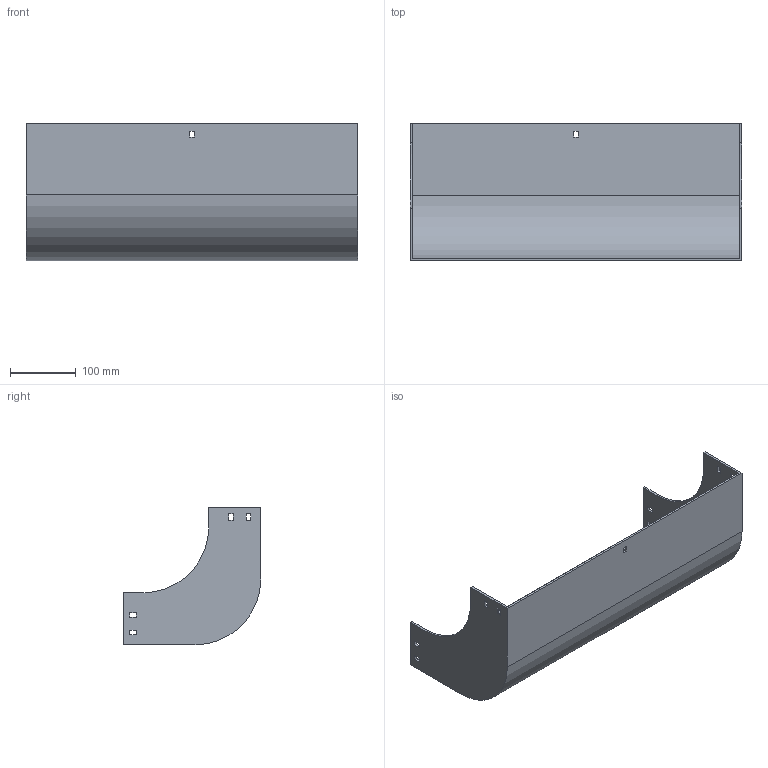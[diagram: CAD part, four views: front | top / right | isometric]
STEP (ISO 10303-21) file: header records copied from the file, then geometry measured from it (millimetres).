
FILE_DESCRIPTION (( 'STEP AP214' ), '1' );
FILE_NAME ('30F1C500.step', '2025-02-21T13:02:20', ( '' ), ( '' ), 'SwSTEP 2.0', 'SolidWorks 2023', '' );
FILE_SCHEMA (( 'AUTOMOTIVE_DESIGN' ));
Length unit declared in the file: millimetre
Products named in the file (1): 30F1C500
Bounding box: 504 x 209 x 209 mm (x, y, z)
Volume: 832766.8 mm3; surface area: 483159.6 mm2
Topology: 1 solids, 1 shells, 58 faces, 168 edges, 112 vertices
Faces by surface type: plane 54, cylinder 4
Entity records: 1943 total; most frequent: CARTESIAN_POINT 339, ORIENTED_EDGE 336, DIRECTION 294, EDGE_CURVE 168, LINE 160, VECTOR 160, VERTEX_POINT 112, EDGE_LOOP 78
